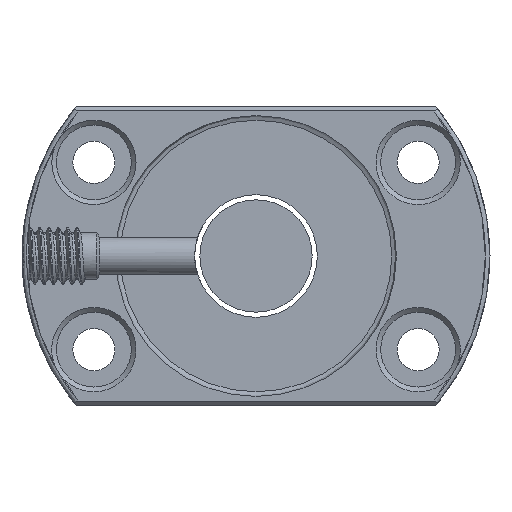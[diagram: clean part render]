
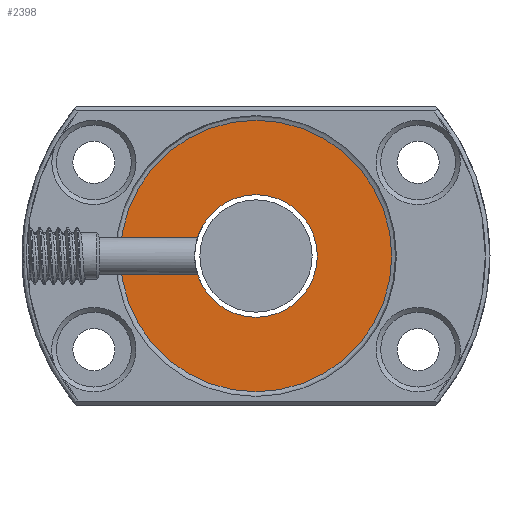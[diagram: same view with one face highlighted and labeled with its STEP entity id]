
A CAD part, left-side view. The second image highlights one B-rep face of the part: STEP entity #2398.
In plain terms, the highlighted planar face has unit normal (1, 0, 0).
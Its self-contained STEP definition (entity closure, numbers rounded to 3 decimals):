
#319 = FACE_BOUND ( 'NONE', #592, .T. ) ;
#356 = ORIENTED_EDGE ( 'NONE', *, *, #2632, .F. ) ;
#563 = AXIS2_PLACEMENT_3D ( 'NONE', #2486, #2265, #3019 ) ;
#592 = EDGE_LOOP ( 'NONE', ( #356 ) ) ;
#688 = CARTESIAN_POINT ( 'NONE',  ( 0., 0., -14.5 ) ) ;
#804 = ORIENTED_EDGE ( 'NONE', *, *, #2863, .T. ) ;
#838 = DIRECTION ( 'NONE',  ( 1., 0., 0. ) ) ;
#1113 = CIRCLE ( 'NONE', #2417, 6.55 ) ;
#1139 = VERTEX_POINT ( 'NONE', #688 ) ;
#1219 = DIRECTION ( 'NONE',  ( 0., 0., -1. ) ) ;
#1264 = VERTEX_POINT ( 'NONE', #2228 ) ;
#1271 = PLANE ( 'NONE',  #563 ) ;
#1276 = EDGE_LOOP ( 'NONE', ( #804 ) ) ;
#1414 = AXIS2_PLACEMENT_3D ( 'NONE', #2031, #838, #1770 ) ;
#1739 = FACE_OUTER_BOUND ( 'NONE', #1276, .T. ) ;
#1770 = DIRECTION ( 'NONE',  ( 0., 0., -1. ) ) ;
#2031 = CARTESIAN_POINT ( 'NONE',  ( 0., 0., 0. ) ) ;
#2144 = CARTESIAN_POINT ( 'NONE',  ( 0., 0., 0. ) ) ;
#2228 = CARTESIAN_POINT ( 'NONE',  ( 0., 0., -6.55 ) ) ;
#2265 = DIRECTION ( 'NONE',  ( 1., 0., 0. ) ) ;
#2398 = ADVANCED_FACE ( 'NONE', ( #1739, #319 ), #1271, .T. ) ;
#2417 = AXIS2_PLACEMENT_3D ( 'NONE', #2144, #2447, #1219 ) ;
#2447 = DIRECTION ( 'NONE',  ( 1., 0., 0. ) ) ;
#2486 = CARTESIAN_POINT ( 'NONE',  ( 0., 6.55, 0. ) ) ;
#2632 = EDGE_CURVE ( 'NONE', #1264, #1264, #1113, .T. ) ;
#2664 = CIRCLE ( 'NONE', #1414, 14.5 ) ;
#2863 = EDGE_CURVE ( 'NONE', #1139, #1139, #2664, .T. ) ;
#3019 = DIRECTION ( 'NONE',  ( 0., 0., -1. ) ) ;
